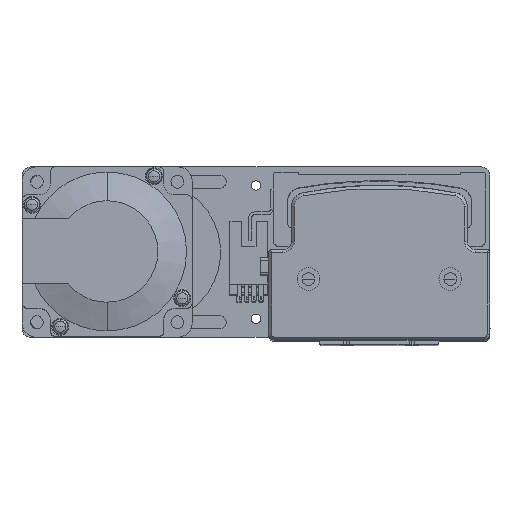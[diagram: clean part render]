
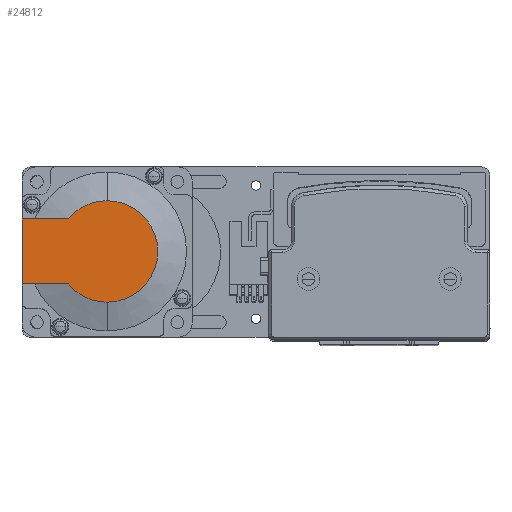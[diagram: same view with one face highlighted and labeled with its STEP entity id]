
A CAD part, top view. The second image highlights one B-rep face of the part: STEP entity #24812.
In plain terms, the highlighted planar face has unit normal (0, 0, 1) as drawn and (-1, 0, 0) by its records, which use the part's own axes.
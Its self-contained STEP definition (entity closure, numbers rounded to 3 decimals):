
#366 = CARTESIAN_POINT ( 'NONE',  ( -118.5, 0., -17.881 ) ) ;
#465 = DIRECTION ( 'NONE',  ( -1., 0., 0. ) ) ;
#537 = LINE ( 'NONE', #4582, #9034 ) ;
#974 = CARTESIAN_POINT ( 'NONE',  ( -118.5, 0., 0. ) ) ;
#1393 = ORIENTED_EDGE ( 'NONE', *, *, #32728, .T. ) ;
#2720 = EDGE_CURVE ( 'NONE', #30391, #9175, #35199, .T. ) ;
#3960 = ORIENTED_EDGE ( 'NONE', *, *, #23322, .F. ) ;
#4581 = DIRECTION ( 'NONE',  ( 0., 0., -1. ) ) ;
#4582 = CARTESIAN_POINT ( 'NONE',  ( -118.5, 30., 25. ) ) ;
#5021 = VERTEX_POINT ( 'NONE', #366 ) ;
#5083 = AXIS2_PLACEMENT_3D ( 'NONE', #40021, #18511, #43617 ) ;
#5836 = CIRCLE ( 'NONE', #5083, 17.881 ) ;
#5992 = VERTEX_POINT ( 'NONE', #43023 ) ;
#6458 = VECTOR ( 'NONE', #22526, 1000. ) ;
#7815 = AXIS2_PLACEMENT_3D ( 'NONE', #974, #26186, #4581 ) ;
#8231 = DIRECTION ( 'NONE',  ( 0., 0., 1. ) ) ;
#9034 = VECTOR ( 'NONE', #8231, 1000. ) ;
#9175 = VERTEX_POINT ( 'NONE', #40909 ) ;
#11680 = ORIENTED_EDGE ( 'NONE', *, *, #19988, .F. ) ;
#13395 = PLANE ( 'NONE',  #36363 ) ;
#14394 = CARTESIAN_POINT ( 'NONE',  ( -118.5, 30., -11.45 ) ) ;
#14871 = AXIS2_PLACEMENT_3D ( 'NONE', #22101, #465, #25683 ) ;
#16361 = VERTEX_POINT ( 'NONE', #24912 ) ;
#17155 = CARTESIAN_POINT ( 'NONE',  ( -118.5, -8.941, 0. ) ) ;
#17835 = ORIENTED_EDGE ( 'NONE', *, *, #40963, .T. ) ;
#18511 = DIRECTION ( 'NONE',  ( -1., 0., 0. ) ) ;
#18621 = VERTEX_POINT ( 'NONE', #36113 ) ;
#18705 = FACE_OUTER_BOUND ( 'NONE', #32358, .T. ) ;
#19988 = EDGE_CURVE ( 'NONE', #5992, #18621, #33436, .T. ) ;
#20795 = DIRECTION ( 'NONE',  ( 0., 0., 1. ) ) ;
#22101 = CARTESIAN_POINT ( 'NONE',  ( -118.5, 0., 0. ) ) ;
#22526 = DIRECTION ( 'NONE',  ( 0., -1., 0. ) ) ;
#23322 = EDGE_CURVE ( 'NONE', #30391, #5992, #537, .T. ) ;
#24812 = ADVANCED_FACE ( 'NONE', ( #18705 ), #13395, .T. ) ;
#24912 = CARTESIAN_POINT ( 'NONE',  ( -118.5, 0., 17.881 ) ) ;
#25683 = DIRECTION ( 'NONE',  ( 0., 0., -1. ) ) ;
#26186 = DIRECTION ( 'NONE',  ( -1., 0., 0. ) ) ;
#26382 = CIRCLE ( 'NONE', #14871, 17.881 ) ;
#27854 = CIRCLE ( 'NONE', #7815, 17.881 ) ;
#30391 = VERTEX_POINT ( 'NONE', #14394 ) ;
#30544 = EDGE_CURVE ( 'NONE', #16361, #18621, #27854, .T. ) ;
#32358 = EDGE_LOOP ( 'NONE', ( #37605, #1393, #17835, #39315, #11680, #3960 ) ) ;
#32728 = EDGE_CURVE ( 'NONE', #9175, #5021, #26382, .T. ) ;
#33436 = LINE ( 'NONE', #36751, #41810 ) ;
#35199 = LINE ( 'NONE', #40443, #6458 ) ;
#36113 = CARTESIAN_POINT ( 'NONE',  ( -118.5, 13.735, 11.45 ) ) ;
#36363 = AXIS2_PLACEMENT_3D ( 'NONE', #17155, #42299, #20795 ) ;
#36751 = CARTESIAN_POINT ( 'NONE',  ( -118.5, 0., 11.45 ) ) ;
#37605 = ORIENTED_EDGE ( 'NONE', *, *, #2720, .T. ) ;
#39315 = ORIENTED_EDGE ( 'NONE', *, *, #30544, .T. ) ;
#40021 = CARTESIAN_POINT ( 'NONE',  ( -118.5, 0., 0. ) ) ;
#40337 = DIRECTION ( 'NONE',  ( 0., -1., 0. ) ) ;
#40443 = CARTESIAN_POINT ( 'NONE',  ( -118.5, -8.941, -11.45 ) ) ;
#40909 = CARTESIAN_POINT ( 'NONE',  ( -118.5, 13.735, -11.45 ) ) ;
#40963 = EDGE_CURVE ( 'NONE', #5021, #16361, #5836, .T. ) ;
#41810 = VECTOR ( 'NONE', #40337, 1000. ) ;
#42299 = DIRECTION ( 'NONE',  ( -1., 0., 0. ) ) ;
#43023 = CARTESIAN_POINT ( 'NONE',  ( -118.5, 30., 11.45 ) ) ;
#43617 = DIRECTION ( 'NONE',  ( 0., 0., -1. ) ) ;
